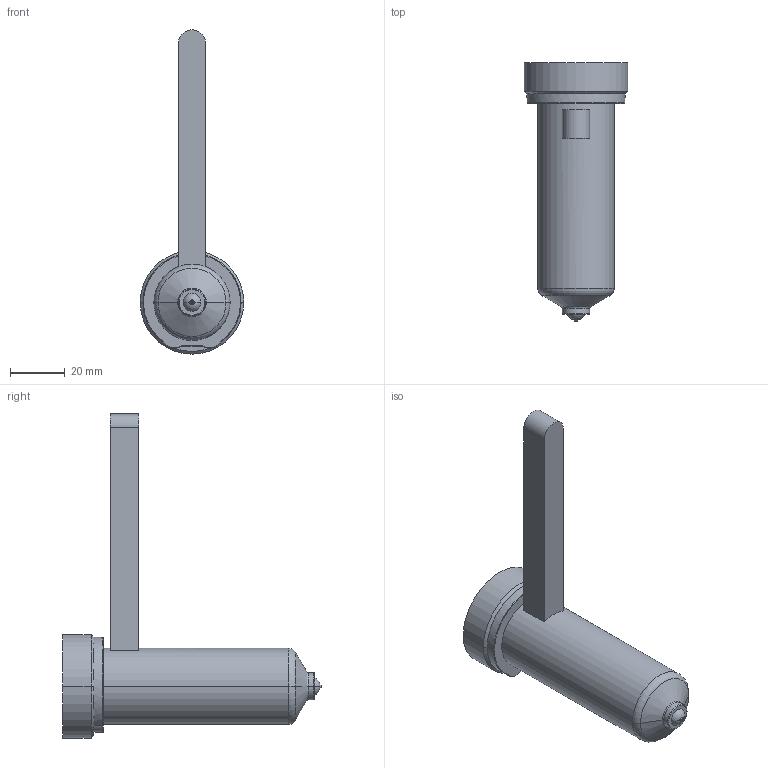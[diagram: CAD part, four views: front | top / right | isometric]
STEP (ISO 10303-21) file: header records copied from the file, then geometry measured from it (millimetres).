
FILE_DESCRIPTION((''),'2;1');
FILE_NAME('EO06_PG-BL_STD_080_COT','2024-02-19T11:01:14',('sundharh'),(''),'CREO PARAMETRIC BY PTC INC, 2023154','CREO PARAMETRIC BY PTC INC, 2023154','');
FILE_SCHEMA(('CONFIG_CONTROL_DESIGN'));
Length unit declared in the file: millimetre
Products named in the file (1): EO06_PG-BL_STD_080_COT
Bounding box: 38 x 95 x 119 mm (x, y, z)
Volume: 70100.9 mm3; surface area: 13709.3 mm2
Topology: 1 solids, 1 shells, 40 faces, 85 edges, 50 vertices
Faces by surface type: cylinder 13, plane 10, torus 9, cone 6, sphere 2
Entity records: 1197 total; most frequent: CARTESIAN_POINT 267, DIRECTION 209, ORIENTED_EDGE 170, AXIS2_PLACEMENT_3D 90, EDGE_CURVE 85, VERTEX_POINT 50, CIRCLE 50, EDGE_LOOP 43
